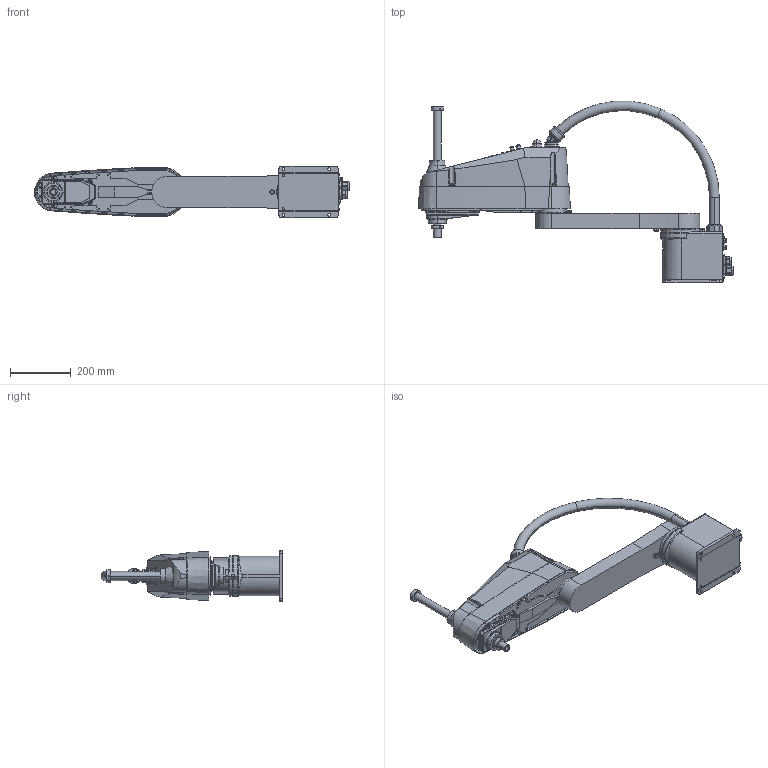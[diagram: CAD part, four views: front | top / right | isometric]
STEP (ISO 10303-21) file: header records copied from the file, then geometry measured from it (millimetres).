
FILE_DESCRIPTION((''),'2;1');
FILE_NAME('LS10-B802S___ASM','2019-02-05T',('5004197'),(''),'CREO PARAMETRIC BY PTC INC, 2017480','CREO PARAMETRIC BY PTC INC, 2017480','');
FILE_SCHEMA(('AUTOMOTIVE_DESIGN { 1 0 10303 214 1 1 1 1 }'));
Products named in the file (7): _LS10-B802S_BASE; _LS10-B802S_CABLE; _LS10-B802S_J1; _LS10-B802S_J2; _LS10-B802S_Z; LS10-B802S___1_ASM; LS10-B802S___ASM
Assembly tree (6 placements, depth 3):
  LS10-B802S___ASM
    LS10-B802S___1_ASM
      _LS10-B802S_BASE
      _LS10-B802S_CABLE
      _LS10-B802S_J1
      _LS10-B802S_J2
      _LS10-B802S_Z
Bounding box: 1033.98 x 595.7 x 169 mm (x, y, z)
Volume: 18342867.7 mm3; surface area: 1157881.7 mm2
Topology: 5 solids, 5 shells, 1995 faces, 4984 edges, 3177 vertices
Faces by surface type: plane 942, cylinder 583, cone 310, torus 121, sphere 22, bspline 17
Entity records: 82400 total; most frequent: CARTESIAN_POINT 19773, DIRECTION 10391, ORIENTED_EDGE 9880, EDGE_CURVE 4940, AXIS2_PLACEMENT_3D 4004, VERTEX_POINT 3177, VECTOR 2383, LINE 2383
